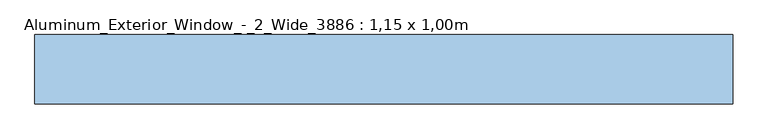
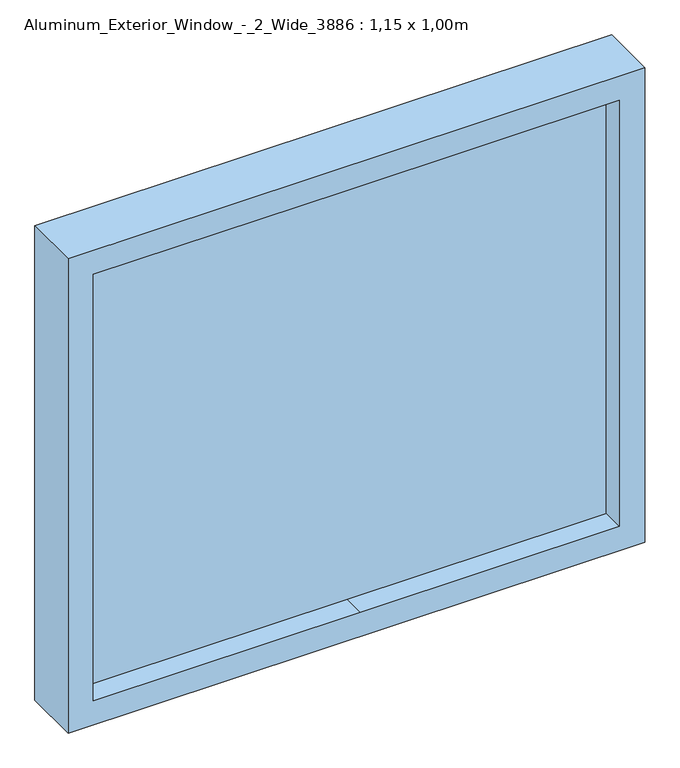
"""IFC4 building model written with IfcOpenShell, lengths in millimetres: window geometry, Aluminum_Exterior_Window_-_2_Wide_3886 : 1,15 x 1,00m."""

from ifc_helpers import new_model, si_unit, frame, origin, place, context, project, spatial, polyline, outline, extrude, source, transform, mapped, element, save


def aluminum_exterior_window_2_wide_3886_1_15_x_1_00m_830be03d(model_context):
    return source(origin(), model_context, "Body", "SweptSolid", [
        extrude(outline(polyline([(2016.0, -1371.6), (1016.0, -1371.6), (1016.0, -221.6), (2016.0, -221.6), (2016.0, -1371.6)]), holes=[polyline([(1965.2, -822.0), (1965.2, -272.4), (1066.8, -272.4), (1066.8, -788.8808837), (1066.8, -1320.8), (1965.2, -1320.8), (1965.2, -822.0)])]), frame((0.0, -38.1424754, 0.0), z_axis=(0.0, 1.0, 0.0), x_axis=(0.0, 0.0, 1.0)), (0.0, 0.0, 1.0), 114.3),
        extrude(outline(polyline([(1965.2, -822.0), (1965.2, -1320.8), (1066.8, -1320.8), (1066.8, -795.891469), (1066.8, -272.4), (1965.2, -272.4), (1965.2, -822.0)])), frame((0.0, 6.3075246, 0.0), z_axis=(0.0, 1.0, 0.0), x_axis=(0.0, 0.0, 1.0)), (0.0, 0.0, 1.0), 25.4),
    ])


if __name__ == "__main__":
    model = new_model("IFC4")
    model_context = context("Model", 3, world=origin())
    ifc_project = project(units=[si_unit("LENGTHUNIT", "METRE", prefix="MILLI")], contexts=[model_context])
    site = spatial("IfcSite", under=ifc_project)
    building = spatial("IfcBuilding", under=site)
    placement = place(None, origin())
    aluminum_exterior_window_2_wide_3886_1_15_x_1_00m_shape = aluminum_exterior_window_2_wide_3886_1_15_x_1_00m_830be03d(model_context)
    element("IfcWindow", 1, ObjectType="Aluminum_Exterior_Window_-_2_Wide_3886 : 1,15 x 1,00m", at=placement, inside=building, context=model_context, shape_type="MappedRepresentation", body=[
        mapped(aluminum_exterior_window_2_wide_3886_1_15_x_1_00m_shape, transform((0.0, 0.0, 0.0), x_axis=(1.0, 0.0, 0.0), y_axis=(0.0, 1.0, 0.0), z_axis=(0.0, 0.0, 1.0))),
    ])
    save(model, "model.ifc")
